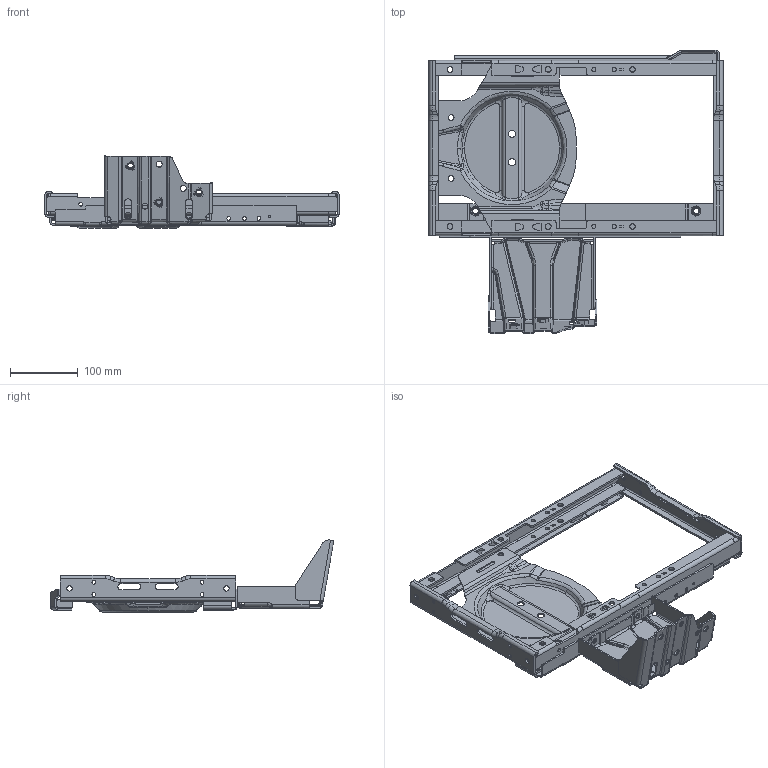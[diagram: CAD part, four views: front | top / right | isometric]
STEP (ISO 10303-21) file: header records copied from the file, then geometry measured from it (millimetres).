
FILE_DESCRIPTION(('CATIA V5 STEP Exchange'),'2;1');
FILE_NAME('C:\Users\nobody\Desktop\3.1-X5000S下框.stp','2024-06-21T09:07:46+00:00',('none'),('none'),'CATIA Version 5 Release 20 GA (IN-10)','CATIA V5 STEP AP203 Edition 2','none');
FILE_SCHEMA(('AP203_CONFIGURATION_CONTROLLED_3D_DESIGN_OF_MECHANICAL_PARTS_AND_ASSEMBLIES_MIM_LF { 1 0 10303 403 2 1 2}'));
Products named in the file (1): Product1_AllCATPart
Bounding box: 435 x 419.16 x 106.74 mm (x, y, z)
Volume: 542163.1 mm3; surface area: 464428.7 mm2
Topology: 18 solids, 18 shells, 1547 faces, 4218 edges, 2669 vertices
Faces by surface type: cylinder 708, plane 499, bspline 176, torus 65, cone 60, sphere 28, extrusion 10, revolution 1
Entity records: 107455 total; most frequent: CARTESIAN_POINT 72151, ORIENTED_EDGE 8344, DIRECTION 5260, EDGE_CURVE 4172, VERTEX_POINT 2669, AXIS2_PLACEMENT_3D 2163, VECTOR 1965, LINE 1955
